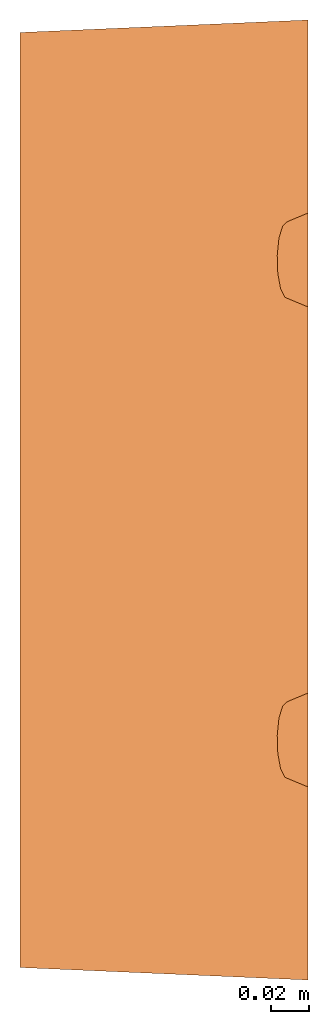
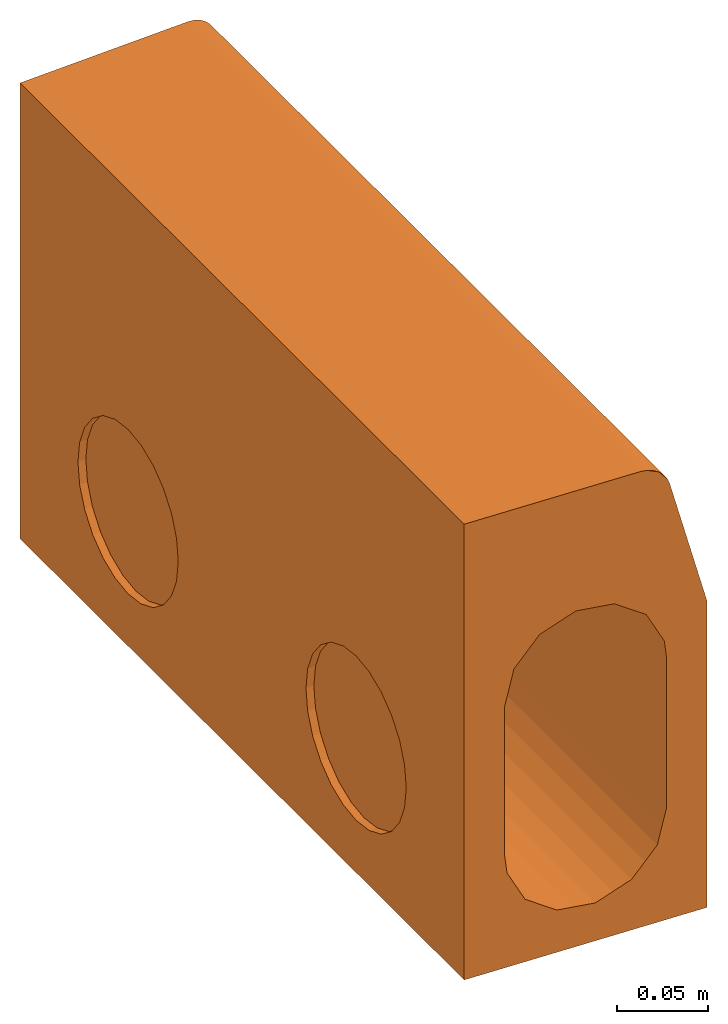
# One storey: 1 proxy.
"""IFC2X3 building model written with IfcOpenShell, lengths in millimetres."""

from ifc_helpers import new_model, entity, si_unit, converted_unit, direction, frame, origin, place, context, subcontext, project, spatial, face_set, surface_model, source, transform, mapped, material, element, save


model = new_model("IFC2X3")

# Units and contexts
model_context = context("Model", 3, precision=1e-06, world=origin(), true_north=direction((2.0, 6.12303176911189e-17, 1.0)))
context_of_model = context(None, 3, precision=1e-06, world=origin(), true_north=direction((2.0, 6.12303176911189e-17, 1.0)))
body_context = subcontext(model_context, "Body", "Model", "MODEL_VIEW")
ifc_project = project(units=[si_unit("LENGTHUNIT", "METRE", prefix="MILLI"), si_unit("AREAUNIT", "SQUARE_METRE", prefix="MILLI"), si_unit("VOLUMEUNIT", "CUBIC_METRE", prefix="MILLI"), converted_unit("PLANEANGLEUNIT", "DEGREE", entity("IfcRatioMeasure", 0.0174532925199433), si_unit("PLANEANGLEUNIT", "RADIAN"), dimensions=[0, 0, 0, 0, 0, 0, 0]), si_unit("TIMEUNIT", "SECOND")], contexts=[model_context, context_of_model])

# Site, building, storey
site_placement = place(None, origin())
site = spatial("IfcSite", under=ifc_project, at=site_placement, Name="Default", CompositionType="ELEMENT")
building_placement = place(site_placement, origin())
building = spatial("IfcBuilding", under=site, at=building_placement, CompositionType="ELEMENT")
storey_placement = place(building_placement, frame((0.0, 0.0, -300.0)))
storey = spatial("IfcBuildingStorey", under=building, at=storey_placement, Name="T.O. Fnd. Wall", CompositionType="ELEMENT", Elevation=-300.0)

# Proxy
ifc_material = material(Name="ACO Polymer Concrete.")
shared_shape = source(origin(), body_context, "Body", "SurfaceModel", [
    surface_model("IfcFaceBasedSurfaceModel", [(-75.0, 6.49999999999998, 125.0), (-75.0, 493.5, 125.0), (-75.0, 493.5, -180.0), (-75.0, 6.49999999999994, -180.0), (-75.0, 375.0, -35.0), (-75.0, 389.235047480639, -36.8740795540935), (-75.0, 402.5, -42.3686027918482), (-75.0, 413.89087296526, -51.1091270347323), (-75.0, 422.631397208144, -62.4999999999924), (-75.0, 428.125920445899, -75.7649525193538), (-75.0, 430.0, -90.0), (-75.0, 428.125920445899, -104.235047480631), (-75.0, 422.631397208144, -117.499999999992), (-75.0, 413.89087296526, -128.890872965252), (-75.0, 402.5, -137.631397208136), (-75.0, 389.235047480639, -143.125920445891), (-75.0, 375.0, -145.0), (-75.0, 360.764952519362, -143.125920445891), (-75.0, 347.5, -137.631397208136), (-75.0, 336.10912703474, -128.890872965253), (-75.0, 327.368602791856, -117.499999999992), (-75.0, 321.874079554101, -104.235047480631), (-75.0, 320.0, -90.0), (-75.0, 321.874079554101, -75.7649525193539), (-75.0, 327.368602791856, -62.4999999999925), (-75.0, 336.10912703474, -51.1091270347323), (-75.0, 347.5, -42.3686027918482), (-75.0, 360.764952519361, -36.8740795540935), (-75.0, 125.0, -35.0), (-75.0, 139.235047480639, -36.8740795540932), (-75.0, 152.5, -42.3686027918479), (-75.0, 163.890872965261, -51.1091270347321), (-75.0, 172.631397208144, -62.4999999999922), (-75.0, 178.125920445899, -75.7649525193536), (-75.0, 180.0, -90.0), (-75.0, 178.125920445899, -104.235047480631), (-75.0, 172.631397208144, -117.499999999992), (-75.0, 163.89087296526, -128.890872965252), (-75.0, 152.5, -137.631397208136), (-75.0, 139.235047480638, -143.125920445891), (-75.0, 125.0, -145.0), (-75.0, 110.764952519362, -143.125920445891), (-75.0, 97.5000000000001, -137.631397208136), (-75.0, 86.10912703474, -128.890872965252), (-75.0, 77.3686027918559, -117.499999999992), (-75.0, 71.8740795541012, -104.235047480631), (-75.0, 70.0, -90.0), (-75.0, 71.8740795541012, -75.7649525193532), (-75.0, 77.3686027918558, -62.4999999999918), (-75.0, 86.1091270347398, -51.1091270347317), (-75.0, 97.5, -42.3686027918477), (-75.0, 110.764952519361, -36.874079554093), (75.0, 500.0, -180.0), (75.0, 0.0, -180.0), (75.0, 500.0, 25.0), (75.0, 399.444444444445, 25.0), (75.0, 400.0, 20.0), (75.0, 399.148145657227, 13.5295238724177), (75.0, 396.650635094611, 7.49999999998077), (75.0, 392.677669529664, 2.32233047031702), (75.0, 387.5, -1.65063509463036), (75.0, 381.470476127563, -4.14814565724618), (75.0, 375.0, -5.0), (75.0, 368.529523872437, -4.14814565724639), (75.0, 362.5, -1.65063509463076), (75.0, 357.322330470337, 2.32233047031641), (75.0, 353.349364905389, 7.49999999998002), (75.0, 350.851854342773, 13.529523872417), (75.0, 350.0, 20.0), (75.0, 350.555555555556, 25.0), (75.0, 149.444444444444, 25.0), (75.0, 150.0, 20.0), (75.0, 149.148145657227, 13.5295238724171), (75.0, 146.650635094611, 7.49999999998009), (75.0, 142.677669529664, 2.32233047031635), (75.0, 137.5, -1.65063509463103), (75.0, 131.470476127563, -4.14814565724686), (75.0, 125.0, -5.0), (75.0, 118.529523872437, -4.14814565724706), (75.0, 112.5, -1.65063509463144), (75.0, 107.322330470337, 2.32233047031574), (75.0, 103.349364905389, 7.49999999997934), (75.0, 100.851854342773, 13.5295238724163), (75.0, 100.0, 20.0), (75.0, 100.555555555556, 25.0), (75.0, 0.0, 25.0), (33.6258679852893, 1.79287905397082, 125.0), (33.6258679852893, 498.207120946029, 125.0), (-50.0, 5.41666666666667, -105.0), (-50.0, 5.41666666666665, -5.0), (-50.0, 494.583333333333, -5.0), (-50.0, 494.583333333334, -105.0), (-28.4032376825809, 495.519209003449, 36.1491924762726), (-37.425538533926, 495.128244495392, 28.1561324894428), (-37.425538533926, 4.87177351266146, 28.1561324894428), (-28.4032376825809, 4.48080701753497, 36.1491924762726), (37.425538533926, 1.62822674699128, 28.1561324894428), (40.2292577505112, 100.469803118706, 24.2282654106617), (37.1572409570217, 100.93961455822, 28.4565297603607), (-6.02683393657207, 496.488844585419, 44.6354431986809), (-17.7302438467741, 495.981680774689, 41.7508127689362), (-17.7302438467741, 4.01831054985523, 41.7508127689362), (-6.02683393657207, 3.51116291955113, 44.6354431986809), (20.3368332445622, 102.297471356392, 40.6772727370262), (17.7302438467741, 2.48168928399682, 41.7508127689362), (23.0667401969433, 2.25044119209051, 38.9500026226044), (49.0129648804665, 105.086145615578, 4.8858164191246), (49.2735458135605, 1.1148130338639, 0.982891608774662), (49.6677032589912, 109.042944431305, 0.75494049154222), (-48.5470912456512, 494.646297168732, 6.96578348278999), (-48.5470912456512, 5.35370721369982, 6.96578348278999), (6.02683393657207, 2.98883719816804, 44.6354431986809), (10.3955841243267, 102.656379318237, 43.9073808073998), (7.34599907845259, 102.691987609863, 44.2279053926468), (-44.2728018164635, 494.831496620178, 18.2361586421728), (-44.2728018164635, 5.16848789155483, 18.2361586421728), (0.0, 102.777774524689, 45.0000012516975), (0.0, 147.222218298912, 45.0000012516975), (2.14820701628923, 102.752694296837, 44.7742156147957), (0.0, 3.25000005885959, 44.6354431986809), (15.3662086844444, 102.476920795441, 42.292326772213), (4.29641403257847, 102.727604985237, 44.5484299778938), (11.8785388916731, 2.73526324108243, 43.1931257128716), (15.3662086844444, 397.523083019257, 42.292326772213), (11.8785388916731, 497.26474199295, 43.1931257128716), (10.3955841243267, 397.34362449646, 43.9073808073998), (32.9143881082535, 1.82370985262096, 32.1526636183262), (33.2732529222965, 101.328190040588, 31.9536909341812), (29.3892626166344, 101.716765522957, 35.4508498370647), (24.8630467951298, 102.007118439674, 38.064062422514), (28.4032376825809, 2.0191931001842, 36.1491924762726), (43.3012722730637, 400.000003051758, 20.0000010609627), (44.2728018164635, 498.668471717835, 18.2361586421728), (40.8491690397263, 498.520115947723, 23.1961449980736), (15.3662086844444, 352.476922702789, 42.292326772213), (10.3955841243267, 352.656381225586, 43.9073808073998), (10.3955841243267, 147.343622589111, 43.9073808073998), (15.3662086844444, 147.52307202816, 42.292326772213), (2.59889603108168, 147.252576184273, 44.7268438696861), (0.0, 352.777776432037, 45.0000012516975), (49.9955993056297, 380.720438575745, -4.33673224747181), (50.0000003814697, 375.000002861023, -5.00000026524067), (50.0000003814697, 436.725195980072, -5.00000026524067), (24.8630467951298, 352.007111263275, 38.064062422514), (20.3368332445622, 352.297464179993, 40.6772727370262), (20.3368332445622, 147.702521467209, 40.6772727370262), (24.8630467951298, 147.992883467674, 38.064062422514), (0.0, 397.222229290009, 45.0000012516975), (45.8762740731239, 100.52910182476, 14.883846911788), (44.2728018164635, 1.33151194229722, 18.2361586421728), (46.4099442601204, 1.23890228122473, 12.6009704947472), (0.0, 496.749984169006, 44.6354431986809), (49.9314453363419, 113.863562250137, -2.38257565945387), (50.0000003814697, 63.2748032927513, -5.00000026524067), (49.9955993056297, 119.279556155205, -4.33673224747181), (5.19779206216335, 397.282908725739, 44.4536910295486), (37.1572409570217, 350.939625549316, 28.4565297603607), (33.2732529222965, 351.328191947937, 31.9536909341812), (33.2732529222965, 148.67181186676, 31.9536909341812), (37.1572409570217, 149.060387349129, 28.4565297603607), (29.3892626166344, 351.716758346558, 35.4508498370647), (29.3892626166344, 148.283236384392, 35.4508498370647), (40.2292577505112, 350.469814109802, 24.2282654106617), (40.2292577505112, 149.530189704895, 24.2282654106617), (7.79668866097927, 147.313273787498, 44.1805336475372), (5.19779206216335, 352.717060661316, 44.4536910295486), (5.19779206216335, 147.282924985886, 44.4536910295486), (6.02683393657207, 497.011160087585, 44.6354431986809), (28.4032376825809, 497.980795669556, 36.1491924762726), (23.0667401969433, 497.749559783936, 38.9500026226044), (24.8630467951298, 397.992894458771, 38.064062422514), (32.9143881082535, 498.176277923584, 32.1526636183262), (29.3892626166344, 398.283247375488, 35.4508498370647), (20.3368332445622, 397.702541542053, 40.6772727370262), (17.7302438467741, 497.518323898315, 41.7508127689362), (47.7841336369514, 397.78861913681, 9.71994177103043), (46.4099442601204, 498.761089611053, 12.6009704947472), (45.8762740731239, 399.470892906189, 14.883846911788), (43.3012722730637, 100.000000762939, 20.0000010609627), (40.8491690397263, 1.47986927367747, 23.1961449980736), (48.5470912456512, 1.1462927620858, 6.96578348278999), (47.7841336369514, 102.211393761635, 9.71994177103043), (47.7841336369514, 352.211386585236, 9.71994177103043), (45.8762740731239, 350.529112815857, 14.883846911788), (45.8762740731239, 149.470900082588, 14.883846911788), (47.7841336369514, 147.788599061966, 9.71994177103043), (43.3012722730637, 350.000002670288, 20.0000010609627), (43.3012722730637, 150.000001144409, 20.0000010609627), (50.0000003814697, 1.08333330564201, -5.00000026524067), (50.0000003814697, 125.000000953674, -5.00000026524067), (49.6677032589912, 359.042946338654, 0.75494049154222), (49.0129648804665, 355.086138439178, 4.8858164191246), (49.0129648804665, 144.913847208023, 4.8858164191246), (49.6677032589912, 140.957057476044, 0.75494049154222), (50.0000003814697, 251.549598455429, -5.00000026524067), (49.9314453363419, 136.136439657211, -2.38257565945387), (50.0000003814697, 186.725194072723, -5.00000026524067), (49.9955993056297, 130.720445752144, -4.33673224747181), (49.9314453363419, 386.136423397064, -2.38257565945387), (49.2735458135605, 498.885173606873, 0.982891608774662), (49.6677032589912, 390.957059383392, 0.75494049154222), (49.9314453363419, 363.86354598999, -2.38257565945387), (50.0000003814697, 313.274809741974, -5.00000026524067), (49.9955993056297, 369.279567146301, -4.33673224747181), (48.5470912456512, 498.853707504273, 6.96578348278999), (49.0129648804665, 394.913867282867, 4.8858164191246), (40.2292577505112, 399.530191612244, 24.2282654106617), (37.425538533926, 498.371760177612, 28.1561324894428), (37.1572409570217, 399.060380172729, 28.4565297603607), (50.0000003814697, 498.916676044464, -5.00000026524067), (33.2732529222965, 398.671813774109, 31.9536909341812), (50.0, 1.08333333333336, -105.0), (50.0, 498.916666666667, -105.0), (48.5470912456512, 498.853707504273, -116.965780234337), (48.5470912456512, 1.1462927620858, -116.965780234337), (44.2728018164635, 498.668471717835, -128.236158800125), (44.2728018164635, 1.33151194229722, -128.236158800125), (28.4032376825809, 497.980795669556, -146.149191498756), (37.425538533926, 498.371760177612, -138.15612924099), (37.425538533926, 1.62822674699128, -138.15612924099), (28.4032376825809, 2.0191931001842, -146.149191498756), (17.7302438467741, 497.518323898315, -151.75081179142), (17.7302438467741, 2.48168928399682, -151.75081179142), (6.02683393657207, 497.011160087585, -154.635437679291), (6.02683393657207, 2.98883719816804, -154.635437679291), (-6.02683393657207, 496.488844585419, -154.635437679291), (-6.02683393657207, 3.51116291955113, -154.635437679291), (-28.4032376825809, 495.519209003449, -146.149191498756), (-17.7302438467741, 495.981680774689, -151.75081179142), (-17.7302438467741, 4.01831054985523, -151.75081179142), (-28.4032376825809, 4.48080701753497, -146.149191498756), (-44.2728018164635, 494.831496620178, -128.236158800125), (-37.425538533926, 495.128244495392, -138.15612924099), (-37.425538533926, 4.87177351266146, -138.15612924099), (-44.2728018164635, 5.16848789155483, -128.236158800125), (-48.5470912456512, 494.646297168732, -116.965780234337), (-48.5470912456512, 5.35370721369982, -116.965780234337), (64.2820323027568, 105.0, 65.0), (62.9995435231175, 105.581163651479, 69.7863132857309), (60.7283686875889, 110.029785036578, 78.2624531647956), (59.2712953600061, 117.907902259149, 83.700324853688), (58.9621214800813, 127.410733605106, 84.8541774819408), (59.8716750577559, 136.361294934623, 81.4596773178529), (61.7915883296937, 142.709120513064, 74.2944634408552), (64.2820323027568, 145.0, 65.0), (64.2820323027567, 355.0, 65.0), (62.9995435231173, 355.581163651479, 69.7863132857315), (60.7283686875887, 360.029785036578, 78.2624531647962), (59.271295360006, 367.907902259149, 83.7003248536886), (58.9621214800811, 377.410733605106, 84.8541774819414), (59.8716750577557, 386.361294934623, 81.4596773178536), (61.7915883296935, 392.709120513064, 74.2944634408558), (64.2820323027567, 395.0, 65.0), (51.9784586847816, 499.002399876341, 110.917561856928), (51.9784586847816, 0.997600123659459, 110.917561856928), (50.479072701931, 498.937423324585, 114.773226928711), (50.479072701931, 1.06257346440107, 114.773226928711), (48.1807119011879, 498.837829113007, 118.212960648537), (48.1807119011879, 1.16216909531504, 118.212960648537), (45.1923359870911, 498.708331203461, 121.073714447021), (45.1923359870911, 1.29166551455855, 121.073714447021), (41.6556150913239, 1.44492338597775, 123.219849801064), (41.6556150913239, 498.555070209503, 123.219849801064), (37.7382215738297, 498.385313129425, 124.549619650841), (37.7382215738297, 1.61467705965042, 124.549619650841), (0.0, 145.0, 65.0), (0.0, 144.318516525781, 70.1763809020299), (0.0, 142.320508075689, 75.0), (0.0, 139.142135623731, 79.1421356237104), (0.0, 135.0, 82.3205080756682), (0.0, 130.17638090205, 84.3185165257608), (0.0, 125.0, 85.0), (0.0, 119.82361909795, 84.3185165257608), (0.0, 115.0, 82.3205080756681), (0.0, 110.857864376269, 79.1421356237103), (0.0, 107.679491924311, 75.0), (0.0, 105.681483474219, 70.1763809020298), (0.0, 105.0, 65.0), (61.7915862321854, 107.290880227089, 74.2944613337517), (59.8716770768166, 113.638703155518, 81.4596807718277), (58.9621214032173, 122.589265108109, 84.8541774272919), (59.2712958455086, 132.092100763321, 83.7003234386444), (62.9995430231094, 144.418837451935, 69.7863153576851), (60.7283698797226, 139.97021727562, 78.262455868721), (0.0, 395.0, 65.0), (0.0, 394.318516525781, 70.1763809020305), (0.0, 392.320508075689, 75.0), (0.0, 389.142135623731, 79.142135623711), (0.0, 385.0, 82.3205080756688), (0.0, 380.17638090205, 84.3185165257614), (0.0, 375.0, 85.0), (0.0, 369.82361909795, 84.3185165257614), (0.0, 365.0, 82.3205080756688), (0.0, 360.857864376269, 79.142135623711), (0.0, 357.679491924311, 75.0), (0.0, 355.681483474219, 70.1763809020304), (0.0, 355.0, 65.0), (61.7915862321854, 357.29087305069, 74.2944613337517), (59.8716770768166, 363.638705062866, 81.4596807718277), (58.9621214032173, 372.589248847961, 84.8541774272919), (59.2712958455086, 382.092084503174, 83.7003234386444), (62.9995430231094, 394.418839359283, 69.7863153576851), (60.7283698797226, 389.970201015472, 78.262455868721), (-70.0, 375.0, -35.0), (-70.0, 389.235047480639, -36.8740795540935), (-70.0, 402.5, -42.3686027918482), (-70.0, 413.89087296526, -51.1091270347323), (-70.0, 422.631397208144, -62.4999999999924), (-70.0, 428.125920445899, -75.7649525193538), (-70.0, 430.0, -90.0), (-70.0, 428.125920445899, -104.235047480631), (-70.0, 422.631397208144, -117.499999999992), (-70.0, 413.89087296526, -128.890872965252), (-70.0, 402.5, -137.631397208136), (-70.0, 389.235047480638, -143.125920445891), (-70.0, 375.0, -145.0), (-70.0, 360.764952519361, -143.125920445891), (-70.0, 347.5, -137.631397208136), (-70.0, 336.10912703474, -128.890872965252), (-70.0, 327.368602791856, -117.499999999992), (-70.0, 321.874079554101, -104.235047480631), (-70.0, 320.0, -90.0), (-70.0, 321.874079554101, -75.7649525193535), (-70.0, 327.368602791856, -62.4999999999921), (-70.0, 336.10912703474, -51.109127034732), (-70.0, 347.5, -42.368602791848), (-70.0, 360.764952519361, -36.8740795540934), (-70.0000014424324, 125.000000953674, -144.999997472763), (-70.0000014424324, 139.235051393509, -143.125920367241), (-70.0000014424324, 152.499993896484, -137.631397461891), (-70.0000014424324, 172.63139591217, -117.500004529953), (-70.0000014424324, 163.890868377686, -128.890869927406), (-70.0000014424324, 178.12591881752, -104.235043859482), (-70.0000014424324, 180.00000500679, -90.0000025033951), (-70.0000014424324, 178.12591881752, -75.7649520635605), (-70.0000014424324, 172.63139591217, -62.5000004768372), (-70.0000014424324, 152.499993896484, -42.3686030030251), (-70.0000014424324, 163.890868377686, -51.109125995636), (-70.0000014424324, 139.235051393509, -36.8740800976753), (-70.0000014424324, 125.000000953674, -35.0000007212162), (-70.0000014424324, 110.76495051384, -36.8740800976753), (-70.0000014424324, 97.4999989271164, -42.3686030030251), (-70.0000014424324, 86.1091244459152, -51.109125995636), (-70.0000014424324, 77.3686059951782, -62.5000004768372), (-70.0000014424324, 71.8740785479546, -75.7649520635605), (-70.0000014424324, 70.0000014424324, -90.0000025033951), (-70.0000014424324, 71.8740785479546, -104.235043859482), (-70.0000014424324, 77.3686059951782, -117.500004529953), (-70.0000014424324, 86.1091244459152, -128.890869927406), (-70.0000014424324, 97.4999989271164, -137.631397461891), (-70.0000014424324, 110.76495051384, -143.125920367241)], [face_set([[[0, 1, 2, 3], [4, 5, 6, 7, 8, 9, 10, 11, 12, 13, 14, 15, 16, 17, 18, 19, 20, 21, 22, 23, 24, 25, 26, 27], [28, 29, 30, 31, 32, 33, 34, 35, 36, 37, 38, 39, 40, 41, 42, 43, 44, 45, 46, 47, 48, 49, 50, 51]], [[52, 53, 3, 2]], [[53, 52, 54, 55, 56, 57, 58, 59, 60, 61, 62, 63, 64, 65, 66, 67, 68, 69, 70, 71, 72, 73, 74, 75, 76, 77, 78, 79, 80, 81, 82, 83, 84, 85]], [[1, 0, 86, 87]], [[88, 89, 90, 91]], [[92, 93, 94, 95]], [[96, 97, 98]], [[99, 100, 101, 102]], [[103, 104, 105]], [[106, 107, 108]], [[100, 92, 95, 101]], [[109, 90, 89, 110]], [[111, 112, 113]], [[93, 114, 115, 94]], [[99, 102, 116, 117]], [[118, 119, 111]], [[114, 109, 110, 115]], [[104, 103, 120]], [[121, 118, 111]], [[116, 102, 119]], [[122, 104, 120]], [[123, 124, 125]], [[126, 127, 128]], [[98, 126, 96]], [[128, 129, 130]], [[131, 132, 133]], [[103, 105, 129]], [[112, 122, 120]], [[134, 135, 136, 137]], [[138, 139, 117]], [[140, 141, 142]], [[143, 144, 145, 146]], [[117, 139, 147, 99]], [[148, 149, 150]], [[112, 111, 122]], [[151, 99, 147]], [[128, 130, 126]], [[152, 153, 154]], [[155, 151, 147]], [[144, 134, 137, 145]], [[156, 157, 158, 159]], [[160, 143, 146, 161]], [[162, 156, 159, 163]], [[164, 165, 166]], [[125, 124, 167]], [[168, 169, 170]], [[171, 168, 172]], [[173, 169, 174]], [[174, 123, 173]], [[168, 170, 172]], [[167, 155, 125]], [[157, 160, 161, 158]], [[175, 176, 177]], [[178, 179, 149]], [[178, 149, 148]], [[164, 135, 165]], [[150, 180, 181]], [[182, 183, 184, 185]], [[150, 181, 148]], [[183, 186, 187, 184]], [[181, 180, 106]], [[186, 162, 163, 187]], [[180, 107, 106]], [[188, 153, 152]], [[152, 108, 107]], [[154, 153, 189]], [[188, 152, 107]], [[190, 191, 192, 193]], [[194, 195, 196]], [[196, 195, 197]], [[195, 194, 193]], [[198, 199, 200]], [[201, 202, 203]], [[191, 182, 185, 192]], [[204, 175, 205]], [[206, 207, 208]], [[133, 206, 131]], [[132, 177, 176]], [[177, 132, 131]], [[176, 175, 204]], [[151, 155, 167]], [[207, 171, 208]], [[194, 201, 190]], [[141, 203, 202]], [[194, 190, 193]], [[199, 204, 205]], [[140, 142, 198]], [[198, 142, 209]], [[209, 199, 198]], [[199, 205, 200]], [[208, 171, 210]], [[202, 201, 194]], [[197, 189, 196]], [[179, 97, 96]], [[124, 123, 174]], [[138, 165, 139]], [[169, 173, 170]], [[171, 172, 210]], [[207, 206, 133]], [[126, 98, 127]], [[130, 129, 105]], [[179, 178, 97]], [[165, 138, 166]], [[116, 119, 118]], [[121, 111, 113]], [[135, 164, 136]], [[189, 188, 211, 212, 209, 141]], [[213, 212, 211, 214]], [[215, 213, 214, 216]], [[217, 218, 219, 220]], [[221, 217, 220, 222]], [[218, 215, 216, 219]], [[223, 221, 222, 224]], [[225, 223, 224, 226]], [[227, 228, 229, 230]], [[228, 225, 226, 229]], [[231, 232, 233, 234]], [[91, 235, 236, 88]], [[235, 231, 234, 236]], [[232, 227, 230, 233]], [[85, 84, 237, 238, 239, 240, 241, 242, 243, 244, 70, 69, 245, 246, 247, 248, 249, 250, 251, 252, 55, 54, 253, 254]], [[254, 253, 255, 256]], [[256, 255, 257, 258]], [[259, 260, 258, 257]], [[261, 262, 263, 264]], [[264, 263, 87, 86]], [[262, 261, 260, 259]], [[265, 266, 267, 268, 269, 270, 271, 272, 273, 274, 275, 276, 277, 116, 117]], [[238, 278, 276]], [[237, 238, 277]], [[279, 240, 273]], [[239, 279, 274]], [[278, 239, 275]], [[278, 275, 276]], [[276, 277, 238]], [[279, 273, 274]], [[274, 275, 239]], [[273, 240, 272]], [[280, 271, 272]], [[280, 272, 240]], [[281, 242, 269]], [[241, 281, 270]], [[265, 244, 282]], [[267, 243, 283]], [[243, 266, 282]], [[242, 283, 268]], [[241, 270, 271]], [[281, 269, 270]], [[242, 268, 269]], [[268, 267, 283]], [[243, 267, 266]], [[266, 265, 282]], [[241, 271, 280]], [[265, 244, 70, 71, 187, 159, 145, 117]], [[71, 184, 72]], [[72, 185, 73]], [[75, 74, 193]], [[197, 77, 76]], [[192, 74, 73]], [[76, 75, 195]], [[71, 187, 184]], [[72, 184, 185]], [[76, 195, 197]], [[74, 192, 193]], [[75, 193, 195]], [[192, 73, 185]], [[197, 189, 77]], [[154, 77, 189]], [[78, 77, 154]], [[79, 152, 78]], [[81, 82, 181]], [[106, 80, 81]], [[108, 79, 80]], [[148, 82, 83]], [[152, 154, 78]], [[108, 152, 79]], [[181, 106, 81]], [[178, 148, 83]], [[181, 82, 148]], [[108, 80, 106]], [[116, 277, 237, 84, 83, 178, 128, 112]], [[284, 285, 286, 287, 288, 289, 290, 291, 292, 293, 294, 295, 296, 139, 147]], [[295, 297, 246]], [[296, 246, 245]], [[298, 248, 292]], [[247, 298, 293]], [[294, 247, 297]], [[295, 294, 297]], [[246, 296, 295]], [[298, 292, 293]], [[247, 294, 293]], [[292, 248, 291]], [[299, 290, 291]], [[299, 291, 248]], [[300, 250, 288]], [[249, 300, 289]], [[301, 252, 284]], [[302, 251, 286]], [[301, 285, 251]], [[250, 302, 287]], [[249, 289, 290]], [[300, 288, 289]], [[250, 287, 288]], [[302, 286, 287]], [[285, 286, 251]], [[301, 284, 285]], [[249, 290, 299]], [[284, 252, 55, 56, 131, 208, 173, 147]], [[57, 177, 56]], [[58, 175, 57]], [[200, 59, 60]], [[140, 62, 61]], [[58, 59, 205]], [[198, 60, 61]], [[177, 131, 56]], [[175, 177, 57]], [[140, 198, 61]], [[200, 205, 59]], [[198, 200, 60]], [[175, 58, 205]], [[140, 141, 62]], [[203, 62, 141]], [[63, 62, 203]], [[63, 201, 64]], [[182, 67, 66]], [[66, 65, 191]], [[65, 64, 190]], [[68, 67, 183]], [[63, 203, 201]], [[64, 201, 190]], [[66, 191, 182]], [[68, 183, 186]], [[183, 67, 182]], [[191, 65, 190]], [[139, 296, 245, 69, 68, 186, 160, 135]], [[0, 86, 264, 260, 256, 254, 85, 53, 3], [88, 236, 233, 229, 224, 220, 216, 211, 188, 180, 96, 104, 102, 95, 115, 89]], [[2, 1, 87, 263, 259, 255, 253, 54, 52], [90, 91, 231, 227, 225, 221, 218, 213, 212, 209, 132, 168, 167, 100, 93, 109]], [[303, 304, 305, 306, 307, 308, 309, 310, 311, 312, 313, 314, 315, 316, 317, 318, 319, 320, 321, 322, 323, 324, 325, 326]], [[315, 16, 15, 314]], [[314, 15, 14, 313]], [[312, 13, 12, 311]], [[313, 14, 13, 312]], [[311, 12, 11, 310]], [[10, 309, 310, 11]], [[309, 10, 9, 308]], [[308, 9, 8, 307]], [[306, 7, 6, 305]], [[307, 8, 7, 306]], [[305, 6, 5, 304]], [[4, 303, 304, 5]], [[326, 27, 4, 303]], [[325, 26, 27, 326]], [[323, 24, 25, 324]], [[324, 25, 26, 325]], [[322, 23, 24, 323]], [[23, 322, 321, 22]], [[320, 21, 22, 321]], [[319, 20, 21, 320]], [[318, 19, 18, 317]], [[318, 19, 20, 319]], [[317, 18, 17, 316]], [[16, 315, 316, 17]], [[327, 40, 39, 328]], [[328, 39, 38, 329]], [[330, 36, 37, 331]], [[329, 38, 37, 331]], [[332, 35, 36, 330]], [[35, 332, 333, 34]], [[334, 33, 34, 333]], [[335, 32, 33, 334]], [[336, 30, 31, 337]], [[337, 31, 32, 335]], [[338, 29, 30, 336]], [[29, 338, 339, 28]], [[339, 28, 51, 340]], [[340, 51, 50, 341]], [[342, 49, 48, 343]], [[341, 50, 49, 342]], [[343, 48, 47, 344]], [[46, 345, 344, 47]], [[345, 46, 45, 346]], [[346, 45, 44, 347]], [[348, 43, 42, 349]], [[347, 44, 43, 348]], [[349, 42, 41, 350]], [[40, 327, 350, 41]], [[339, 338, 336, 337, 335, 334, 333, 332, 330, 331, 329, 328, 327, 350, 349, 348, 347, 346, 345, 344, 343, 342, 341, 340]]])]),
])
proxy_placement = place(storey_placement, frame((-4010.98705540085, -6177.33245691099, 300.0)))
element("IfcBuildingElementProxy", 1, at=proxy_placement, inside=storey, material=ifc_material, Name="Civil-Drainage-Channel-ACO-KerbDrain-HB305 Part 2:7968 - 7-6m external mitre:7968 - 7-6m external mitre", ObjectType="7968 - 7-6m external mitre", CompositionType="ELEMENT", context=body_context, shape_type="MappedRepresentation", body=[
    mapped(shared_shape, transform((0.0, 0.0, 0.0), scale=1.0)),
])

save(model, "model.ifc")
